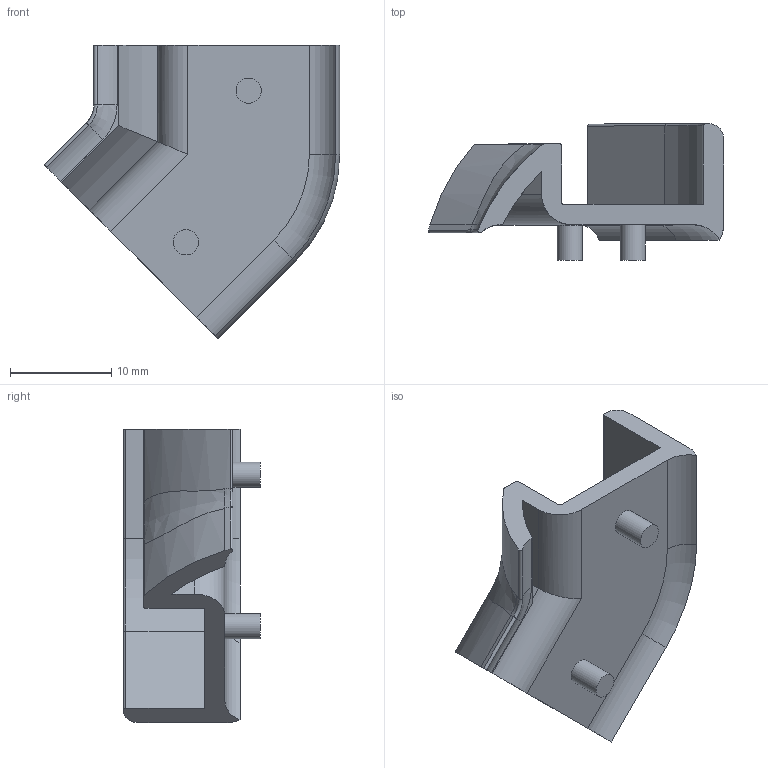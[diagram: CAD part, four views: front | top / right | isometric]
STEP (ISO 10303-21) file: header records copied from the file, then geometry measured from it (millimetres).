
FILE_DESCRIPTION (( 'STEP AP214' ), '1' );
FILE_NAME ('L15823.step', '2024-12-03T16:19:26', ( '' ), ( '' ), 'SwSTEP 2.0', 'SolidWorks 2023', '' );
FILE_SCHEMA (( 'AUTOMOTIVE_DESIGN' ));
Length unit declared in the file: millimetre
Products named in the file (1): L15823
Bounding box: 29.2 x 13.5 x 29.02 mm (x, y, z)
Volume: 2009.7 mm3; surface area: 2302.2 mm2
Topology: 1 solids, 1 shells, 58 faces, 141 edges, 87 vertices
Faces by surface type: cylinder 30, plane 17, torus 6, bspline 5
Full cylindrical faces by diameter (mm): 2.5 x2
Entity records: 2015 total; most frequent: CARTESIAN_POINT 637, DIRECTION 294, ORIENTED_EDGE 278, EDGE_CURVE 139, AXIS2_PLACEMENT_3D 113, VERTEX_POINT 87, LINE 68, VECTOR 68
